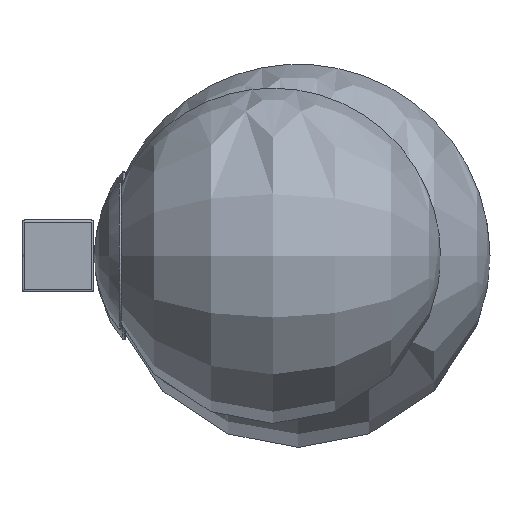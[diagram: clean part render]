
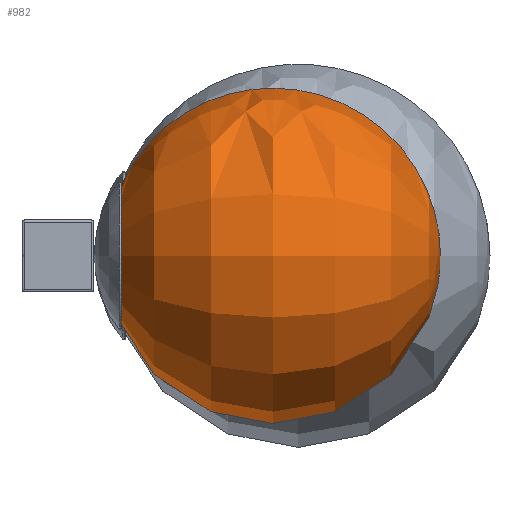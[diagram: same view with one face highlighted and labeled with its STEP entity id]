
A CAD part, left-side view. The second image highlights one B-rep face of the part: STEP entity #982.
In plain terms, the highlighted free-form (B-spline) face has degree [2, 2] with [5, 9] control points.
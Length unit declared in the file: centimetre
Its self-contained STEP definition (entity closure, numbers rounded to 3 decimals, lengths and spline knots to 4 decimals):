
#921 = CARTESIAN_POINT ('', (-5., -15.9727, 8.0001));
#922 = VERTEX_POINT ('', #921);
#923 = CARTESIAN_POINT ('', (-5., -1.9727, 8.));
#924 = VERTEX_POINT ('', #923);
#925 = CARTESIAN_POINT ('', (-5., -15.9727, 8.0001));
#926 = CARTESIAN_POINT ('', (-5., -15.9727, 15.0001));
#927 = CARTESIAN_POINT ('', (-5., -8.9727, 15.0001));
#928 = CARTESIAN_POINT ('', (-5., -1.9727, 15.));
#929 = CARTESIAN_POINT ('', (-5., -1.9727, 8.));
#930 = (
   BOUNDED_CURVE ()
   B_SPLINE_CURVE (2, (#925, #926, #927, #928, #929), .UNSPECIFIED., .F., .U.)
   B_SPLINE_CURVE_WITH_KNOTS ((3, 2, 3), (0., 0.5, 1.), .UNSPECIFIED.)
   CURVE ()
   GEOMETRIC_REPRESENTATION_ITEM ()
   RATIONAL_B_SPLINE_CURVE ((1., 0.707, 1., 0.707, 1.))
   REPRESENTATION_ITEM ('')
);
#931 = EDGE_CURVE ('', #922, #924, #930, .T.);
#932 = ORIENTED_EDGE ('', *, *, #931, .T.);
#933 = ORIENTED_EDGE ('', *, *, #931, .F.);
#934 = EDGE_LOOP ('', (#932, #933));
#935 = FACE_OUTER_BOUND ('', #934, .T.);
#936 = CARTESIAN_POINT ('', (-5., -15.9727, 8.0001));
#937 = CARTESIAN_POINT ('', (-5., -15.9727, 8.0001));
#938 = CARTESIAN_POINT ('', (-5., -15.9727, 8.0001));
#939 = CARTESIAN_POINT ('', (-5., -15.9727, 8.0001));
#940 = CARTESIAN_POINT ('', (-5., -15.9727, 8.0001));
#941 = CARTESIAN_POINT ('', (-5., -15.9727, 8.0001));
#942 = CARTESIAN_POINT ('', (-5., -15.9727, 8.0001));
#943 = CARTESIAN_POINT ('', (-5., -15.9727, 8.0001));
#944 = CARTESIAN_POINT ('', (-5., -15.9727, 8.0001));
#945 = CARTESIAN_POINT ('', (-5., -15.9727, 15.0001));
#946 = CARTESIAN_POINT ('', (-12., -15.9727, 15.0001));
#947 = CARTESIAN_POINT ('', (-12., -15.9727, 8.0001));
#948 = CARTESIAN_POINT ('', (-12., -15.9728, 1.0001));
#949 = CARTESIAN_POINT ('', (-5., -15.9728, 1.0001));
#950 = CARTESIAN_POINT ('', (2., -15.9728, 1.0001));
#951 = CARTESIAN_POINT ('', (2., -15.9727, 8.0001));
#952 = CARTESIAN_POINT ('', (2., -15.9727, 15.0001));
#953 = CARTESIAN_POINT ('', (-5., -15.9727, 15.0001));
#954 = CARTESIAN_POINT ('', (-5., -8.9727, 15.0001));
#955 = CARTESIAN_POINT ('', (-12., -8.9727, 15.0001));
#956 = CARTESIAN_POINT ('', (-12., -8.9727, 8.0001));
#957 = CARTESIAN_POINT ('', (-12., -8.9728, 1.0001));
#958 = CARTESIAN_POINT ('', (-5., -8.9728, 1.0001));
#959 = CARTESIAN_POINT ('', (2., -8.9728, 1.0001));
#960 = CARTESIAN_POINT ('', (2., -8.9727, 8.0001));
#961 = CARTESIAN_POINT ('', (2., -8.9727, 15.0001));
#962 = CARTESIAN_POINT ('', (-5., -8.9727, 15.0001));
#963 = CARTESIAN_POINT ('', (-5., -1.9727, 15.));
#964 = CARTESIAN_POINT ('', (-12., -1.9727, 15.));
#965 = CARTESIAN_POINT ('', (-12., -1.9727, 8.));
#966 = CARTESIAN_POINT ('', (-12., -1.9728, 1.));
#967 = CARTESIAN_POINT ('', (-5., -1.9728, 1.));
#968 = CARTESIAN_POINT ('', (2., -1.9728, 1.));
#969 = CARTESIAN_POINT ('', (2., -1.9727, 8.));
#970 = CARTESIAN_POINT ('', (2., -1.9727, 15.));
#971 = CARTESIAN_POINT ('', (-5., -1.9727, 15.));
#972 = CARTESIAN_POINT ('', (-5., -1.9727, 8.));
#973 = CARTESIAN_POINT ('', (-5., -1.9727, 8.));
#974 = CARTESIAN_POINT ('', (-5., -1.9727, 8.));
#975 = CARTESIAN_POINT ('', (-5., -1.9727, 8.));
#976 = CARTESIAN_POINT ('', (-5., -1.9727, 8.));
#977 = CARTESIAN_POINT ('', (-5., -1.9727, 8.));
#978 = CARTESIAN_POINT ('', (-5., -1.9727, 8.));
#979 = CARTESIAN_POINT ('', (-5., -1.9727, 8.));
#980 = CARTESIAN_POINT ('', (-5., -1.9727, 8.));
#981 = (
   BOUNDED_SURFACE ()
   B_SPLINE_SURFACE (2, 2, ((#936, #937, #938, #939, #940, #941, #942, #943, #944), (#945, #946, #947, #948, #949, #950, #951, #952, #953), (#954, #955, #956, #957, #958, #959, #960, #961, #962), (#963, #964, #965, #966, #967, #968, #969, #970, #971), (#972, #973, #974, #975, #976, #977, #978, #979, #980)), .UNSPECIFIED., .F., .T., .U.)
   B_SPLINE_SURFACE_WITH_KNOTS ((3, 2, 3), (3, 2, 2, 2, 3), (0., 0.5, 1.), (0., 0.25, 0.5, 0.75, 1.), .UNSPECIFIED.)
   SURFACE ()
   GEOMETRIC_REPRESENTATION_ITEM ()
   RATIONAL_B_SPLINE_SURFACE (((1., 0.707, 1., 0.707, 1., 0.707, 1., 0.707, 1.), (0.707, 0.5, 0.707, 0.5, 0.707, 0.5, 0.707, 0.5, 0.707), (1., 0.707, 1., 0.707, 1., 0.707, 1., 0.707, 1.), (0.707, 0.5, 0.707, 0.5, 0.707, 0.5, 0.707, 0.5, 0.707), (1., 0.707, 1., 0.707, 1., 0.707, 1., 0.707, 1.)))
   REPRESENTATION_ITEM ('')
);
#982 = ADVANCED_FACE ('', (#935), #981, .T.);
